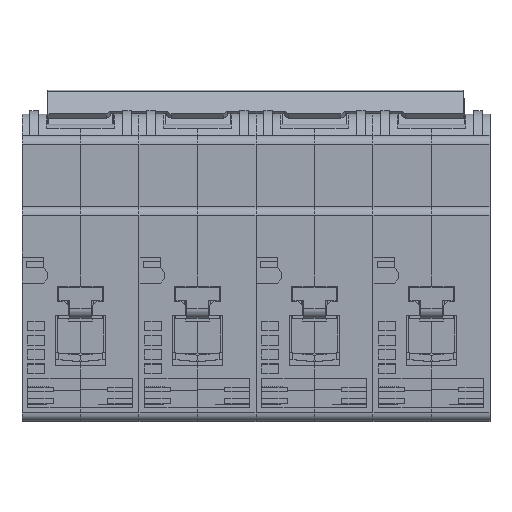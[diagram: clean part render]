
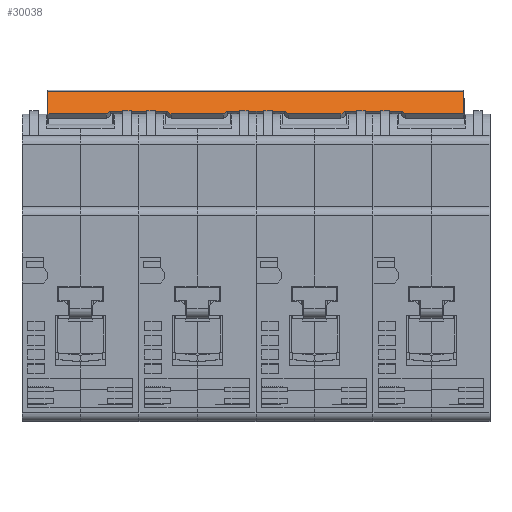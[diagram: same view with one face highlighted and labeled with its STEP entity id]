
A CAD part, top view. The second image highlights one B-rep face of the part: STEP entity #30038.
In plain terms, the highlighted planar face has unit normal (0, 0.731, 0.683) as drawn and (1, 0, 0) by its records, which use the part's own axes.
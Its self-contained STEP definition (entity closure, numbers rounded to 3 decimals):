
#47 = LINE ( 'NONE', #1064, #26777 ) ;
#142 = CARTESIAN_POINT ( 'NONE',  ( 4., 48., -7.7 ) ) ;
#582 = CARTESIAN_POINT ( 'NONE',  ( 4., 48., 0. ) ) ;
#778 = CARTESIAN_POINT ( 'NONE',  ( 4., -48., 0. ) ) ;
#963 = LINE ( 'NONE', #23475, #12788 ) ;
#1064 = CARTESIAN_POINT ( 'NONE',  ( 4., -33.6, -1. ) ) ;
#1172 = ORIENTED_EDGE ( 'NONE', *, *, #20769, .T. ) ;
#1359 = CARTESIAN_POINT ( 'NONE',  ( 4., 7.5, 0. ) ) ;
#1434 = CARTESIAN_POINT ( 'NONE',  ( 4., -6.5, -1. ) ) ;
#2333 = CARTESIAN_POINT ( 'NONE',  ( 4., 6.5, -1. ) ) ;
#2359 = ORIENTED_EDGE ( 'NONE', *, *, #2852, .T. ) ;
#2817 = VERTEX_POINT ( 'NONE', #27607 ) ;
#2852 = EDGE_CURVE ( 'NONE', #20802, #14159, #21040, .T. ) ;
#2962 = VECTOR ( 'NONE', #19873, 1000. ) ;
#4070 = CARTESIAN_POINT ( 'NONE',  ( 4., 20.6, -1. ) ) ;
#4168 = VERTEX_POINT ( 'NONE', #5154 ) ;
#4391 = EDGE_CURVE ( 'NONE', #15990, #20802, #12018, .T. ) ;
#4479 = DIRECTION ( 'NONE',  ( 0., -0.707, -0.707 ) ) ;
#4816 = DIRECTION ( 'NONE',  ( 0., -1., 0. ) ) ;
#5035 = CARTESIAN_POINT ( 'NONE',  ( 4., -7.5, 0. ) ) ;
#5154 = CARTESIAN_POINT ( 'NONE',  ( 4., -48., -7.7 ) ) ;
#5399 = VECTOR ( 'NONE', #27799, 1000. ) ;
#5551 = EDGE_CURVE ( 'NONE', #19770, #30062, #32730, .T. ) ;
#5645 = VECTOR ( 'NONE', #23260, 1000. ) ;
#6147 = CARTESIAN_POINT ( 'NONE',  ( 4., 6.5, -1. ) ) ;
#6815 = CARTESIAN_POINT ( 'NONE',  ( 4., -20.6, -1. ) ) ;
#6884 = VECTOR ( 'NONE', #26736, 1000. ) ;
#6994 = CARTESIAN_POINT ( 'NONE',  ( 4., 20.6, -1. ) ) ;
#7742 = LINE ( 'NONE', #142, #21277 ) ;
#7984 = EDGE_CURVE ( 'NONE', #24196, #13527, #26994, .T. ) ;
#8586 = DIRECTION ( 'NONE',  ( 0., -0.707, -0.707 ) ) ;
#8809 = CARTESIAN_POINT ( 'NONE',  ( 4., 48., -7.7 ) ) ;
#9117 = VERTEX_POINT ( 'NONE', #8809 ) ;
#9118 = CARTESIAN_POINT ( 'NONE',  ( 4., 33.6, -1. ) ) ;
#9125 = ORIENTED_EDGE ( 'NONE', *, *, #31382, .F. ) ;
#9690 = VECTOR ( 'NONE', #34161, 1000. ) ;
#9711 = DIRECTION ( 'NONE',  ( 0., -0.707, 0.707 ) ) ;
#10007 = CARTESIAN_POINT ( 'NONE',  ( 4., 34.6, 0. ) ) ;
#10347 = LINE ( 'NONE', #1434, #14980 ) ;
#10719 = VERTEX_POINT ( 'NONE', #5035 ) ;
#10763 = VECTOR ( 'NONE', #17656, 1000. ) ;
#11405 = VECTOR ( 'NONE', #13925, 1000. ) ;
#11487 = EDGE_CURVE ( 'NONE', #10719, #15990, #11838, .T. ) ;
#11838 = LINE ( 'NONE', #582, #11405 ) ;
#12009 = VERTEX_POINT ( 'NONE', #16276 ) ;
#12018 = LINE ( 'NONE', #14311, #32001 ) ;
#12388 = DIRECTION ( 'NONE',  ( 0., 0., -1. ) ) ;
#12788 = VECTOR ( 'NONE', #12388, 1000. ) ;
#13060 = ORIENTED_EDGE ( 'NONE', *, *, #32933, .T. ) ;
#13527 = VERTEX_POINT ( 'NONE', #18438 ) ;
#13923 = VECTOR ( 'NONE', #4479, 1000. ) ;
#13925 = DIRECTION ( 'NONE',  ( 0., -1., 0. ) ) ;
#13934 = CARTESIAN_POINT ( 'NONE',  ( 4., -20.6, -1. ) ) ;
#14159 = VERTEX_POINT ( 'NONE', #32067 ) ;
#14279 = CARTESIAN_POINT ( 'NONE',  ( 4., 48., -7.7 ) ) ;
#14311 = CARTESIAN_POINT ( 'NONE',  ( 4., -19.6, 0. ) ) ;
#14540 = DIRECTION ( 'NONE',  ( 0., -0.707, 0.707 ) ) ;
#14566 = CARTESIAN_POINT ( 'NONE',  ( 4., 20.6, -1. ) ) ;
#14659 = VECTOR ( 'NONE', #4816, 1000. ) ;
#14829 = LINE ( 'NONE', #28157, #10763 ) ;
#14980 = VECTOR ( 'NONE', #9711, 1000. ) ;
#15876 = ORIENTED_EDGE ( 'NONE', *, *, #24688, .T. ) ;
#15990 = VERTEX_POINT ( 'NONE', #32498 ) ;
#16147 = VERTEX_POINT ( 'NONE', #9118 ) ;
#16230 = FACE_OUTER_BOUND ( 'NONE', #20642, .T. ) ;
#16276 = CARTESIAN_POINT ( 'NONE',  ( 4., -34.6, 0. ) ) ;
#16295 = CARTESIAN_POINT ( 'NONE',  ( 4., 48., 0. ) ) ;
#16984 = DIRECTION ( 'NONE',  ( -1., 0., 0. ) ) ;
#17656 = DIRECTION ( 'NONE',  ( 0., 0., -1. ) ) ;
#17844 = EDGE_CURVE ( 'NONE', #31461, #16147, #21156, .T. ) ;
#18438 = CARTESIAN_POINT ( 'NONE',  ( 4., 19.6, 0. ) ) ;
#18846 = DIRECTION ( 'NONE',  ( 0., -1., 0. ) ) ;
#19539 = ORIENTED_EDGE ( 'NONE', *, *, #4391, .T. ) ;
#19653 = ORIENTED_EDGE ( 'NONE', *, *, #11487, .T. ) ;
#19763 = DIRECTION ( 'NONE',  ( 0., 0., 1. ) ) ;
#19770 = VERTEX_POINT ( 'NONE', #6147 ) ;
#19873 = DIRECTION ( 'NONE',  ( 0., -1., 0. ) ) ;
#20460 = LINE ( 'NONE', #4070, #5645 ) ;
#20642 = EDGE_LOOP ( 'NONE', ( #2359, #15876, #1172, #13060, #22251, #32726, #32333, #20981, #9125, #34977, #21991, #22854, #23498, #22495, #19653, #19539 ) ) ;
#20769 = EDGE_CURVE ( 'NONE', #12009, #34755, #27930, .T. ) ;
#20802 = VERTEX_POINT ( 'NONE', #13934 ) ;
#20981 = ORIENTED_EDGE ( 'NONE', *, *, #17844, .T. ) ;
#21040 = LINE ( 'NONE', #6815, #14659 ) ;
#21156 = LINE ( 'NONE', #10007, #13923 ) ;
#21277 = VECTOR ( 'NONE', #18846, 1000. ) ;
#21991 = ORIENTED_EDGE ( 'NONE', *, *, #25367, .T. ) ;
#22251 = ORIENTED_EDGE ( 'NONE', *, *, #31601, .F. ) ;
#22495 = ORIENTED_EDGE ( 'NONE', *, *, #29674, .T. ) ;
#22854 = ORIENTED_EDGE ( 'NONE', *, *, #24003, .T. ) ;
#23260 = DIRECTION ( 'NONE',  ( 0., 1., 0. ) ) ;
#23475 = CARTESIAN_POINT ( 'NONE',  ( 4., 48., -7.7 ) ) ;
#23498 = ORIENTED_EDGE ( 'NONE', *, *, #5551, .T. ) ;
#24003 = EDGE_CURVE ( 'NONE', #29030, #19770, #34038, .T. ) ;
#24196 = VERTEX_POINT ( 'NONE', #14566 ) ;
#24688 = EDGE_CURVE ( 'NONE', #14159, #12009, #47, .T. ) ;
#24714 = VECTOR ( 'NONE', #8586, 1000. ) ;
#24979 = VECTOR ( 'NONE', #32589, 1000. ) ;
#25367 = EDGE_CURVE ( 'NONE', #13527, #29030, #30078, .T. ) ;
#25946 = EDGE_CURVE ( 'NONE', #2817, #31461, #31342, .T. ) ;
#26348 = CARTESIAN_POINT ( 'NONE',  ( 4., 34.6, 0. ) ) ;
#26736 = DIRECTION ( 'NONE',  ( 0., -1., 0. ) ) ;
#26777 = VECTOR ( 'NONE', #14540, 1000. ) ;
#26994 = LINE ( 'NONE', #6994, #5399 ) ;
#27534 = CARTESIAN_POINT ( 'NONE',  ( 4., 7.5, 0. ) ) ;
#27607 = CARTESIAN_POINT ( 'NONE',  ( 4., 48., 0. ) ) ;
#27799 = DIRECTION ( 'NONE',  ( 0., -0.707, 0.707 ) ) ;
#27822 = CARTESIAN_POINT ( 'NONE',  ( 4., -6.5, -1. ) ) ;
#27930 = LINE ( 'NONE', #16295, #24979 ) ;
#28157 = CARTESIAN_POINT ( 'NONE',  ( 4., -48., -7.7 ) ) ;
#28337 = DIRECTION ( 'NONE',  ( 0., -0.707, -0.707 ) ) ;
#29030 = VERTEX_POINT ( 'NONE', #1359 ) ;
#29674 = EDGE_CURVE ( 'NONE', #30062, #10719, #10347, .T. ) ;
#30038 = ADVANCED_FACE ( 'NONE', ( #16230 ), #30566, .F. ) ;
#30062 = VERTEX_POINT ( 'NONE', #27822 ) ;
#30078 = LINE ( 'NONE', #33384, #2962 ) ;
#30566 = PLANE ( 'NONE',  #33019 ) ;
#31174 = EDGE_CURVE ( 'NONE', #2817, #9117, #963, .T. ) ;
#31342 = LINE ( 'NONE', #31428, #9690 ) ;
#31382 = EDGE_CURVE ( 'NONE', #24196, #16147, #20460, .T. ) ;
#31428 = CARTESIAN_POINT ( 'NONE',  ( 4., 48., 0. ) ) ;
#31461 = VERTEX_POINT ( 'NONE', #26348 ) ;
#31601 = EDGE_CURVE ( 'NONE', #9117, #4168, #7742, .T. ) ;
#32001 = VECTOR ( 'NONE', #28337, 1000. ) ;
#32067 = CARTESIAN_POINT ( 'NONE',  ( 4., -33.6, -1. ) ) ;
#32333 = ORIENTED_EDGE ( 'NONE', *, *, #25946, .T. ) ;
#32498 = CARTESIAN_POINT ( 'NONE',  ( 4., -19.6, 0. ) ) ;
#32589 = DIRECTION ( 'NONE',  ( 0., -1., 0. ) ) ;
#32726 = ORIENTED_EDGE ( 'NONE', *, *, #31174, .F. ) ;
#32730 = LINE ( 'NONE', #2333, #6884 ) ;
#32933 = EDGE_CURVE ( 'NONE', #34755, #4168, #14829, .T. ) ;
#33019 = AXIS2_PLACEMENT_3D ( 'NONE', #14279, #16984, #19763 ) ;
#33384 = CARTESIAN_POINT ( 'NONE',  ( 4., 48., 0. ) ) ;
#34038 = LINE ( 'NONE', #27534, #24714 ) ;
#34161 = DIRECTION ( 'NONE',  ( 0., -1., 0. ) ) ;
#34755 = VERTEX_POINT ( 'NONE', #778 ) ;
#34977 = ORIENTED_EDGE ( 'NONE', *, *, #7984, .T. ) ;
